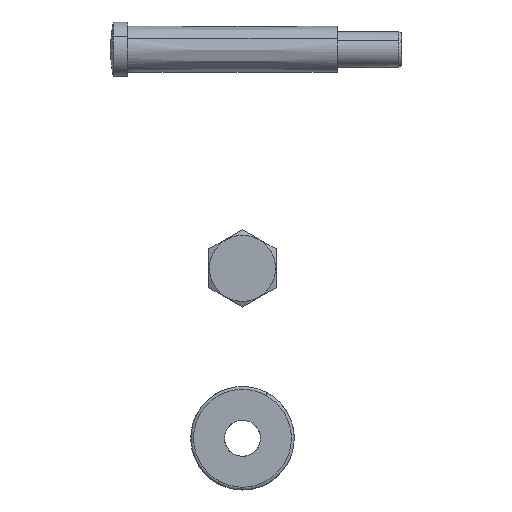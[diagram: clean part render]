
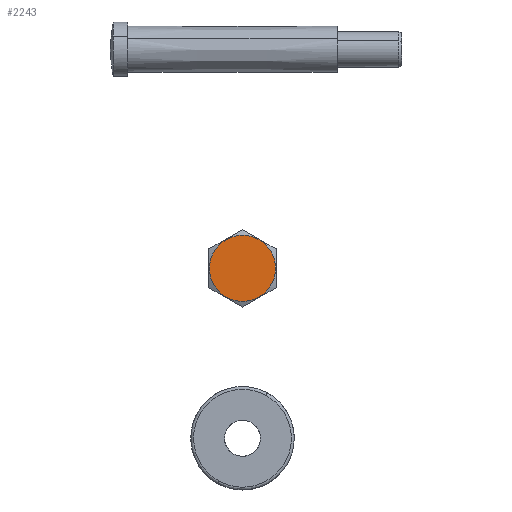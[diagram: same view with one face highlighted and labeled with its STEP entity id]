
A CAD part, top view. The second image highlights one B-rep face of the part: STEP entity #2243.
In plain terms, the highlighted planar face has unit normal (0, 0, 1).
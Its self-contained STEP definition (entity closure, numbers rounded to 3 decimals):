
#226 = VERTEX_POINT ( 'NONE', #837 ) ;
#795 = CARTESIAN_POINT ( 'NONE',  ( -11.5, 0., 0. ) ) ;
#837 = CARTESIAN_POINT ( 'NONE',  ( 11.5, 0., 0. ) ) ;
#850 = VERTEX_POINT ( 'NONE', #795 ) ;
#1178 = EDGE_LOOP ( 'NONE', ( #1209, #1213 ) ) ;
#1209 = ORIENTED_EDGE ( 'NONE', *, *, #4715, .T. ) ;
#1213 = ORIENTED_EDGE ( 'NONE', *, *, #4719, .T. ) ;
#1246 = FACE_OUTER_BOUND ( 'NONE', #1178, .T. ) ;
#2243 = ADVANCED_FACE ( 'NONE', ( #1246 ), #3158, .F. ) ;
#3158 = PLANE ( 'NONE',  #4804 ) ;
#3385 = CARTESIAN_POINT ( 'NONE',  ( -11.5, -11.5, 0. ) ) ;
#3392 = DIRECTION ( 'NONE',  ( 0., 0., -1. ) ) ;
#3393 = DIRECTION ( 'NONE',  ( 0., 1., 0. ) ) ;
#3864 = CARTESIAN_POINT ( 'NONE',  ( -11.5, 0., 0. ) ) ;
#3876 = CARTESIAN_POINT ( 'NONE',  ( -11.5, -1.728, 0. ) ) ;
#3877 = CARTESIAN_POINT ( 'NONE',  ( -11.111, -3.433, 0. ) ) ;
#3878 = CARTESIAN_POINT ( 'NONE',  ( -10.361, -4.99, 0. ) ) ;
#3879 = CARTESIAN_POINT ( 'NONE',  ( -9.612, -6.546, 0. ) ) ;
#3880 = CARTESIAN_POINT ( 'NONE',  ( -8.521, -7.914, 0. ) ) ;
#3881 = CARTESIAN_POINT ( 'NONE',  ( -7.17, -8.991, 0. ) ) ;
#3882 = CARTESIAN_POINT ( 'NONE',  ( -5.819, -10.068, 0. ) ) ;
#3883 = CARTESIAN_POINT ( 'NONE',  ( -4.243, -10.827, 0. ) ) ;
#3884 = CARTESIAN_POINT ( 'NONE',  ( -2.559, -11.212, 0. ) ) ;
#3885 = CARTESIAN_POINT ( 'NONE',  ( -0.875, -11.596, 0. ) ) ;
#3886 = CARTESIAN_POINT ( 'NONE',  ( 0.875, -11.596, 0. ) ) ;
#3887 = CARTESIAN_POINT ( 'NONE',  ( 2.559, -11.212, 0. ) ) ;
#3888 = CARTESIAN_POINT ( 'NONE',  ( 4.243, -10.827, 0. ) ) ;
#3889 = CARTESIAN_POINT ( 'NONE',  ( 5.819, -10.068, 0. ) ) ;
#3890 = CARTESIAN_POINT ( 'NONE',  ( 7.17, -8.991, 0. ) ) ;
#3891 = CARTESIAN_POINT ( 'NONE',  ( 8.521, -7.914, 0. ) ) ;
#3892 = CARTESIAN_POINT ( 'NONE',  ( 9.612, -6.546, 0. ) ) ;
#3893 = CARTESIAN_POINT ( 'NONE',  ( 10.361, -4.99, 0. ) ) ;
#3894 = CARTESIAN_POINT ( 'NONE',  ( 11.111, -3.433, 0. ) ) ;
#3895 = CARTESIAN_POINT ( 'NONE',  ( 11.5, -1.728, 0. ) ) ;
#3896 = CARTESIAN_POINT ( 'NONE',  ( 11.5, 0., 0. ) ) ;
#3918 = CARTESIAN_POINT ( 'NONE',  ( 11.5, 0., 0. ) ) ;
#3937 = CARTESIAN_POINT ( 'NONE',  ( 11.5, 1.728, 0. ) ) ;
#3938 = CARTESIAN_POINT ( 'NONE',  ( 11.111, 3.433, 0. ) ) ;
#3939 = CARTESIAN_POINT ( 'NONE',  ( 10.361, 4.99, 0. ) ) ;
#3940 = CARTESIAN_POINT ( 'NONE',  ( 9.612, 6.546, 0. ) ) ;
#3941 = CARTESIAN_POINT ( 'NONE',  ( 8.521, 7.914, 0. ) ) ;
#3942 = CARTESIAN_POINT ( 'NONE',  ( 7.17, 8.991, 0. ) ) ;
#3943 = CARTESIAN_POINT ( 'NONE',  ( 5.819, 10.068, 0. ) ) ;
#3944 = CARTESIAN_POINT ( 'NONE',  ( 4.243, 10.827, 0. ) ) ;
#3945 = CARTESIAN_POINT ( 'NONE',  ( 2.559, 11.212, 0. ) ) ;
#3946 = CARTESIAN_POINT ( 'NONE',  ( 0.875, 11.596, 0. ) ) ;
#3947 = CARTESIAN_POINT ( 'NONE',  ( -0.875, 11.596, 0. ) ) ;
#3948 = CARTESIAN_POINT ( 'NONE',  ( -2.559, 11.212, 0. ) ) ;
#3949 = CARTESIAN_POINT ( 'NONE',  ( -4.243, 10.827, 0. ) ) ;
#3950 = CARTESIAN_POINT ( 'NONE',  ( -5.819, 10.068, 0. ) ) ;
#3951 = CARTESIAN_POINT ( 'NONE',  ( -7.17, 8.991, 0. ) ) ;
#3952 = CARTESIAN_POINT ( 'NONE',  ( -8.521, 7.914, 0. ) ) ;
#3953 = CARTESIAN_POINT ( 'NONE',  ( -9.612, 6.546, 0. ) ) ;
#3954 = CARTESIAN_POINT ( 'NONE',  ( -10.361, 4.99, 0. ) ) ;
#3955 = CARTESIAN_POINT ( 'NONE',  ( -11.111, 3.433, 0. ) ) ;
#3956 = CARTESIAN_POINT ( 'NONE',  ( -11.5, 1.728, 0. ) ) ;
#3957 = CARTESIAN_POINT ( 'NONE',  ( -11.5, 0., 0. ) ) ;
#4715 = EDGE_CURVE ( 'NONE', #850, #226, #4858, .T. ) ;
#4719 = EDGE_CURVE ( 'NONE', #226, #850, #4855, .T. ) ;
#4804 = AXIS2_PLACEMENT_3D ( 'NONE', #3385, #3392, #3393 ) ;
#4855 = B_SPLINE_CURVE_WITH_KNOTS ( 'NONE', 3,
 ( #3918, #3937, #3938, #3939, #3940, #3941, #3942, #3943, #3944, #3945, #3946, #3947, #3948, #3949, #3950, #3951, #3952, #3953, #3954, #3955, #3956, #3957 ),
 .UNSPECIFIED., .F., .F.,
 ( 4, 3, 3, 3, 3, 3, 3, 4 ),
 ( -0.033, -0.028, -0.023, -0.018, -0.013, -0.008, -0.003, 0.003 ),
 .UNSPECIFIED. ) ;
#4858 = B_SPLINE_CURVE_WITH_KNOTS ( 'NONE', 3,
 ( #3864, #3876, #3877, #3878, #3879, #3880, #3881, #3882, #3883, #3884, #3885, #3886, #3887, #3888, #3889, #3890, #3891, #3892, #3893, #3894, #3895, #3896 ),
 .UNSPECIFIED., .F., .F.,
 ( 4, 3, 3, 3, 3, 3, 3, 4 ),
 ( -0.033, -0.028, -0.023, -0.018, -0.012, -0.007, -0.002, 0.003 ),
 .UNSPECIFIED. ) ;
